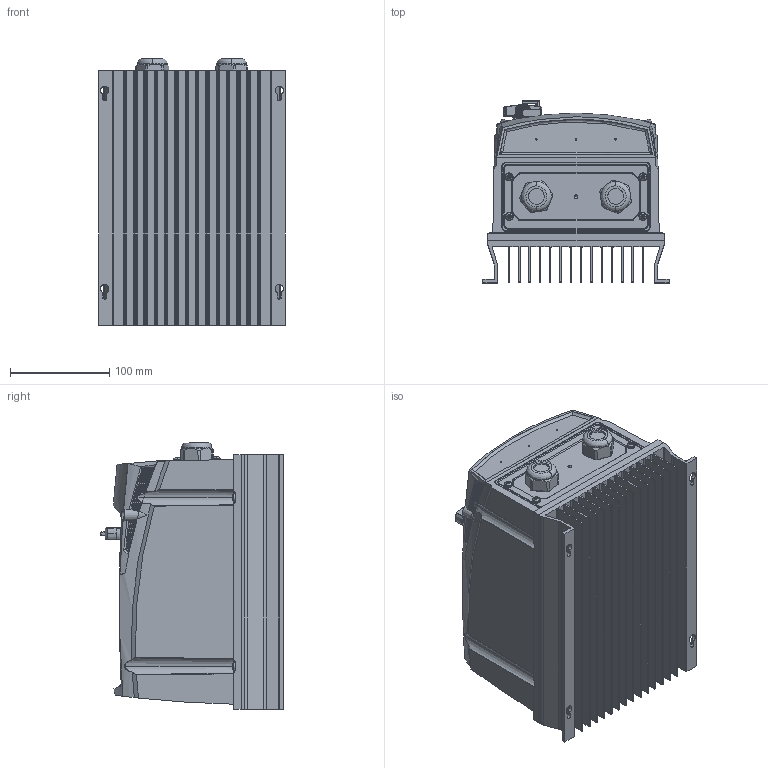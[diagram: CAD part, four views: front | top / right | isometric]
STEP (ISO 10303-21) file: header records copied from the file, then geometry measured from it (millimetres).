
FILE_DESCRIPTION(('CATIA V5 STEP 214'),'2;1');
FILE_NAME('C:\Temp\ddxv7\402843\VERTIMO SIZE B.stp','2019-05-07T07:35:44+00:00',('Leopold Kostal'),('Kostal GmbH'),'CATIA Version 5 Release 19 SP 9 (IN-10)','CATIA V5 STEP AP214','none');
FILE_SCHEMA(('AUTOMOTIVE_DESIGN { 1 0 10303 214 1 1 1 1 }'));
Products named in the file (1): VERTIMO SIZE B
Bounding box: 188 x 184.07 x 268.99 mm (x, y, z)
Volume: 5287065.5 mm3; surface area: 538819.9 mm2
Topology: 1 solids, 1 shells, 4745 faces, 18057 edges, 12332 vertices
Faces by surface type: sphere 1937, cylinder 1337, bspline 668, plane 438, cone 260, torus 105
Entity records: 302952 total; most frequent: CARTESIAN_POINT 149992, ORIENTED_EDGE 33510, EDGE_CURVE 16755, DIRECTION 13044, VERTEX_POINT 12332, B_SPLINE_CURVE_WITH_KNOTS 11048, AXIS2_PLACEMENT_3D 6966, EDGE_LOOP 5103
